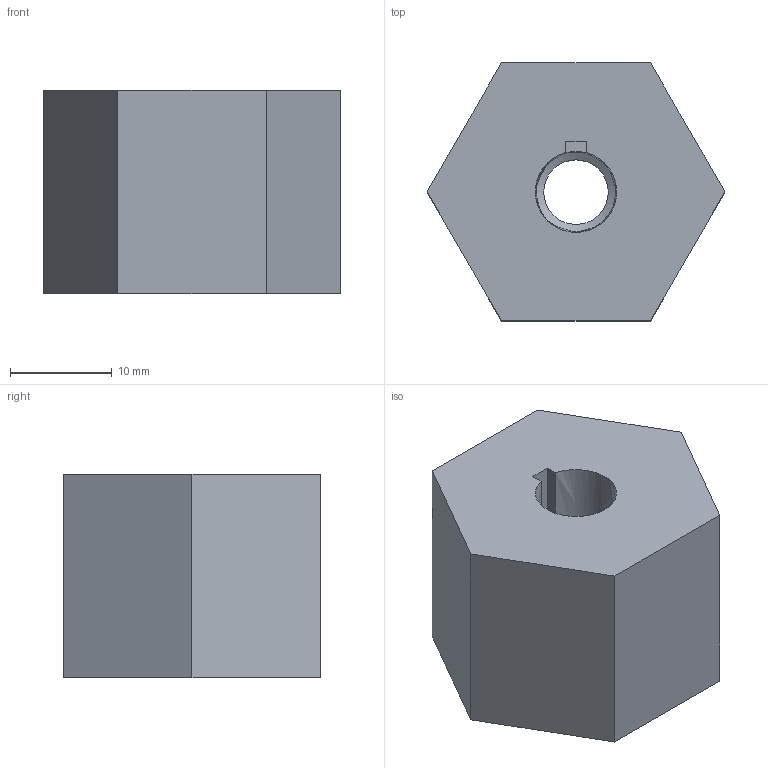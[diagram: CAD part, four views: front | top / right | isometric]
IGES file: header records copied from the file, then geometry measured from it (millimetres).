
Global section: file name: No Iges File Name specified; native system: AutoDesk Inventor R5.0; preprocessor: AutoDesk Inventor Iges Exporter R5.0; author: No Author specified; organization: No Organization specified; date: 20040116.181706; units: inch
Bounding box: 29.33 x 25.4 x 20 mm (x, y, z)
Surface area: 3318.5 mm2 (no closed solid volume)
Topology: 0 solids, 0 shells, 15 faces, 71 edges, 68 vertices
Faces by surface type: plane 12, bspline 3
